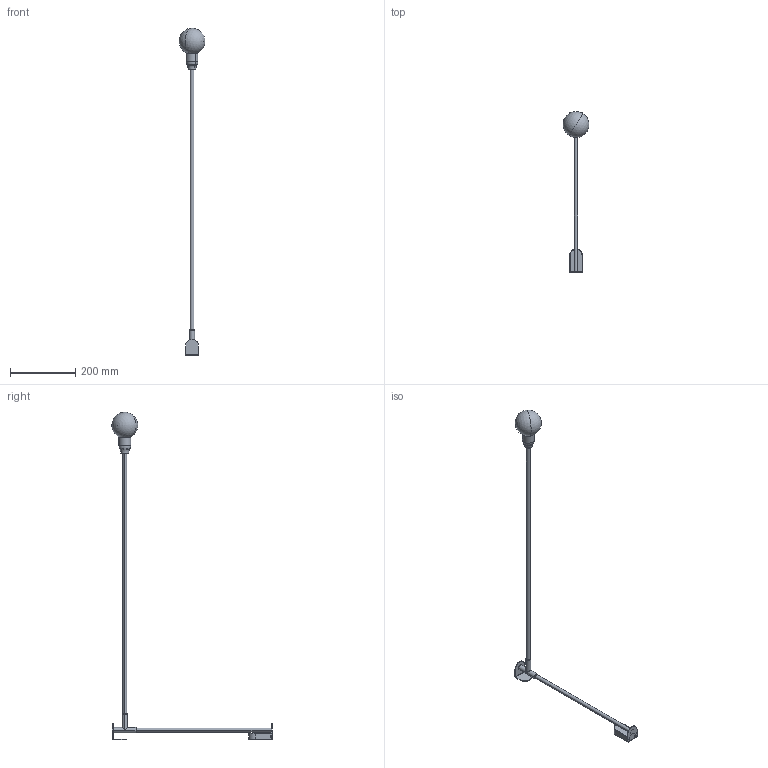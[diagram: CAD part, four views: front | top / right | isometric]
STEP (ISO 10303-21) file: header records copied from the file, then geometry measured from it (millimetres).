
FILE_DESCRIPTION (( 'STEP AP214' ), '1' );
FILE_NAME ('3D_POTENCE_PIVOTANTE_MINI.STEP', '2018-03-14T15:04:56', ( 'Utente' ), ( '' ), 'SwSTEP 2.0', 'SolidWorks 2016', '' );
FILE_SCHEMA (( 'AUTOMOTIVE_DESIGN' ));
Length unit declared in the file: millimetre
Products named in the file (3): 061POM000100MARTIMA-1^3D_POTENCE_PIVOTANTE_MINI; Group2^3D_POTENCE_PIVOTANTE_MINI; 3D_POTENCE_PIVOTANTE_MINI
Assembly tree (2 placements, depth 2):
  3D_POTENCE_PIVOTANTE_MINI
    Group2^3D_POTENCE_PIVOTANTE_MINI
    061POM000100MARTIMA-1^3D_POTENCE_PIVOTANTE_MINI
Bounding box: 79.72 x 492.93 x 1007.47 mm (x, y, z)
Volume: 503439.7 mm3; surface area: 106528 mm2
Topology: 2 solids, 3 shells, 128 faces, 294 edges, 176 vertices
Faces by surface type: plane 59, cylinder 43, torus 12, cone 10, bspline 2, sphere 2
Entity records: 6292 total; most frequent: CARTESIAN_POINT 2549, DIRECTION 672, ORIENTED_EDGE 578, EDGE_CURVE 289, AXIS2_PLACEMENT_3D 256, VERTEX_POINT 173, VECTOR 160, LINE 160
